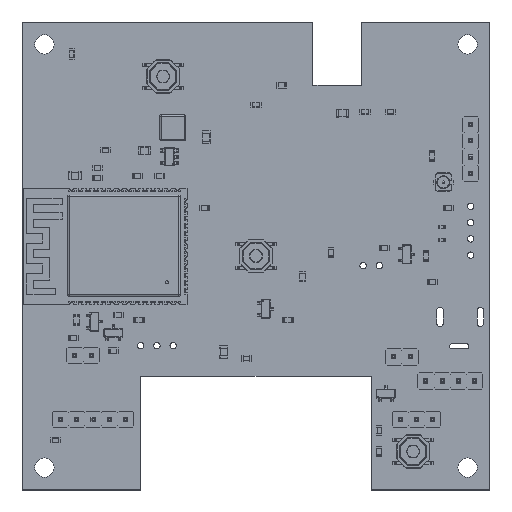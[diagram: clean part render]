
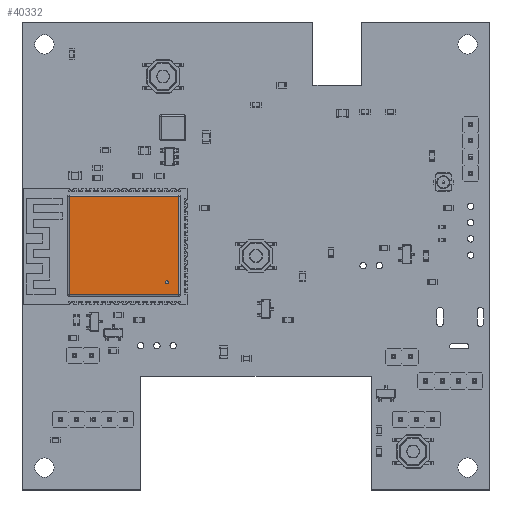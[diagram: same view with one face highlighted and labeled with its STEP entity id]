
A CAD part, top view. The second image highlights one B-rep face of the part: STEP entity #40332.
In plain terms, the highlighted planar face has unit normal (0, 0, 1).
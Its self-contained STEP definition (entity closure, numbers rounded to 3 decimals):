
#40156 = VERTEX_POINT('',#40157);
#40157 = CARTESIAN_POINT('',(-7.55,5.65,3.1));
#40164 = EDGE_CURVE('',#40156,#40165,#40167,.T.);
#40165 = VERTEX_POINT('',#40166);
#40166 = CARTESIAN_POINT('',(7.75,5.65,3.1));
#40167 = LINE('',#40168,#40169);
#40168 = CARTESIAN_POINT('',(-7.8,5.65,3.1));
#40169 = VECTOR('',#40170,1.);
#40170 = DIRECTION('',(1.,0.,0.));
#40332 = ADVANCED_FACE('',(#40333,#40358),#40369,.T.);
#40333 = FACE_BOUND('',#40334,.T.);
#40334 = EDGE_LOOP('',(#40335,#40345,#40351,#40352));
#40335 = ORIENTED_EDGE('',*,*,#40336,.F.);
#40336 = EDGE_CURVE('',#40337,#40339,#40341,.T.);
#40337 = VERTEX_POINT('',#40338);
#40338 = CARTESIAN_POINT('',(7.75,-11.45,3.1));
#40339 = VERTEX_POINT('',#40340);
#40340 = CARTESIAN_POINT('',(-7.55,-11.45,3.1));
#40341 = LINE('',#40342,#40343);
#40342 = CARTESIAN_POINT('',(8.,-11.45,3.1));
#40343 = VECTOR('',#40344,1.);
#40344 = DIRECTION('',(-1.,0.,0.));
#40345 = ORIENTED_EDGE('',*,*,#40346,.F.);
#40346 = EDGE_CURVE('',#40165,#40337,#40347,.T.);
#40347 = LINE('',#40348,#40349);
#40348 = CARTESIAN_POINT('',(7.75,5.9,3.1));
#40349 = VECTOR('',#40350,1.);
#40350 = DIRECTION('',(0.,-1.,0.));
#40351 = ORIENTED_EDGE('',*,*,#40164,.F.);
#40352 = ORIENTED_EDGE('',*,*,#40353,.F.);
#40353 = EDGE_CURVE('',#40339,#40156,#40354,.T.);
#40354 = LINE('',#40355,#40356);
#40355 = CARTESIAN_POINT('',(-7.55,-11.7,3.1));
#40356 = VECTOR('',#40357,1.);
#40357 = DIRECTION('',(0.,1.,0.));
#40358 = FACE_BOUND('',#40359,.T.);
#40359 = EDGE_LOOP('',(#40360));
#40360 = ORIENTED_EDGE('',*,*,#40361,.F.);
#40361 = EDGE_CURVE('',#40362,#40362,#40364,.T.);
#40362 = VERTEX_POINT('',#40363);
#40363 = CARTESIAN_POINT('',(-5.35,-9.6,3.1));
#40364 = CIRCLE('',#40365,0.25);
#40365 = AXIS2_PLACEMENT_3D('',#40366,#40367,#40368);
#40366 = CARTESIAN_POINT('',(-5.6,-9.6,3.1));
#40367 = DIRECTION('',(0.,0.,1.));
#40368 = DIRECTION('',(1.,0.,-0.));
#40369 = PLANE('',#40370);
#40370 = AXIS2_PLACEMENT_3D('',#40371,#40372,#40373);
#40371 = CARTESIAN_POINT('',(0.1,-2.9,3.1));
#40372 = DIRECTION('',(0.,0.,1.));
#40373 = DIRECTION('',(1.,0.,-0.));
